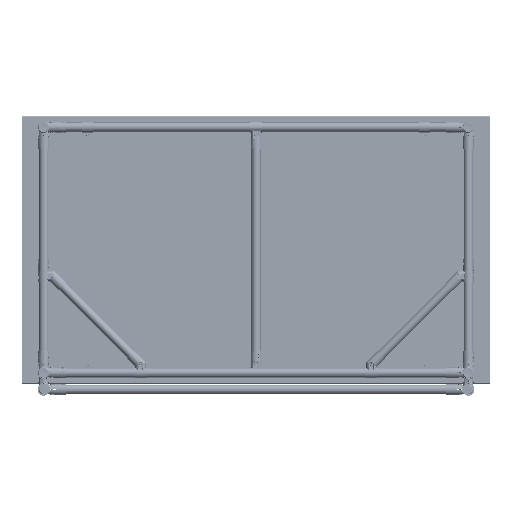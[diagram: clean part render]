
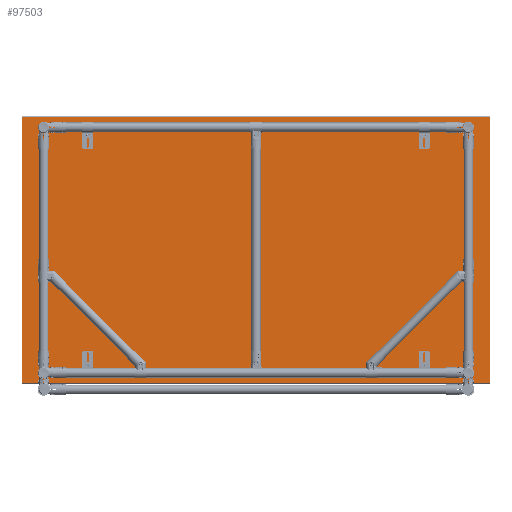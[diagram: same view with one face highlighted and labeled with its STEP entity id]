
A CAD part, front view. The second image highlights one B-rep face of the part: STEP entity #97503.
In plain terms, the highlighted planar face has unit normal (0, -1, 0) as drawn and (0, 0, -1) by its records, which use the part's own axes.
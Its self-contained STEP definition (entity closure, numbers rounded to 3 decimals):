
#164 = VERTEX_POINT ( 'NONE', #95360 ) ;
#241 = CARTESIAN_POINT ( 'NONE',  ( 699.2, 0., 0. ) ) ;
#2279 = CARTESIAN_POINT ( 'NONE',  ( -699.2, 0., 0. ) ) ;
#4894 = VERTEX_POINT ( 'NONE', #32377 ) ;
#5395 = AXIS2_PLACEMENT_3D ( 'NONE', #124902, #7633, #42361 ) ;
#6124 = PLANE ( 'NONE',  #5395 ) ;
#7633 = DIRECTION ( 'NONE',  ( 0., 0., 1. ) ) ;
#11627 = EDGE_LOOP ( 'NONE', ( #37687, #44551, #146033, #129091 ) ) ;
#17993 = EDGE_CURVE ( 'NONE', #164, #4894, #108795, .T. ) ;
#22515 = VERTEX_POINT ( 'NONE', #66685 ) ;
#26206 = DIRECTION ( 'NONE',  ( 0., 1., 0. ) ) ;
#32377 = CARTESIAN_POINT ( 'NONE',  ( -699.2, -399.2, 0. ) ) ;
#32672 = LINE ( 'NONE', #115158, #141025 ) ;
#33433 = DIRECTION ( 'NONE',  ( 1., 0., 0. ) ) ;
#37105 = CARTESIAN_POINT ( 'NONE',  ( 0., -399.2, 0. ) ) ;
#37687 = ORIENTED_EDGE ( 'NONE', *, *, #102975, .T. ) ;
#42361 = DIRECTION ( 'NONE',  ( 1., 0., 0. ) ) ;
#44551 = ORIENTED_EDGE ( 'NONE', *, *, #91170, .T. ) ;
#66685 = CARTESIAN_POINT ( 'NONE',  ( -699.2, 399.2, 0. ) ) ;
#73040 = CARTESIAN_POINT ( 'NONE',  ( 699.2, 399.2, 0. ) ) ;
#83718 = VECTOR ( 'NONE', #97240, 1000. ) ;
#85648 = DIRECTION ( 'NONE',  ( 0., -1., 0. ) ) ;
#91170 = EDGE_CURVE ( 'NONE', #132671, #164, #141398, .T. ) ;
#92618 = VECTOR ( 'NONE', #26206, 1000. ) ;
#95360 = CARTESIAN_POINT ( 'NONE',  ( 699.2, -399.2, 0. ) ) ;
#97240 = DIRECTION ( 'NONE',  ( -1., 0., 0. ) ) ;
#97503 = ADVANCED_FACE ( 'NONE', ( #146507 ), #6124, .F. ) ;
#102975 = EDGE_CURVE ( 'NONE', #22515, #132671, #32672, .T. ) ;
#107885 = VECTOR ( 'NONE', #85648, 1000. ) ;
#108795 = LINE ( 'NONE', #37105, #83718 ) ;
#109456 = LINE ( 'NONE', #2279, #92618 ) ;
#115158 = CARTESIAN_POINT ( 'NONE',  ( 0., 399.2, 0. ) ) ;
#119223 = EDGE_CURVE ( 'NONE', #4894, #22515, #109456, .T. ) ;
#124902 = CARTESIAN_POINT ( 'NONE',  ( 0., 0., 0. ) ) ;
#129091 = ORIENTED_EDGE ( 'NONE', *, *, #119223, .T. ) ;
#132671 = VERTEX_POINT ( 'NONE', #73040 ) ;
#141025 = VECTOR ( 'NONE', #33433, 1000. ) ;
#141398 = LINE ( 'NONE', #241, #107885 ) ;
#146033 = ORIENTED_EDGE ( 'NONE', *, *, #17993, .T. ) ;
#146507 = FACE_OUTER_BOUND ( 'NONE', #11627, .T. ) ;
